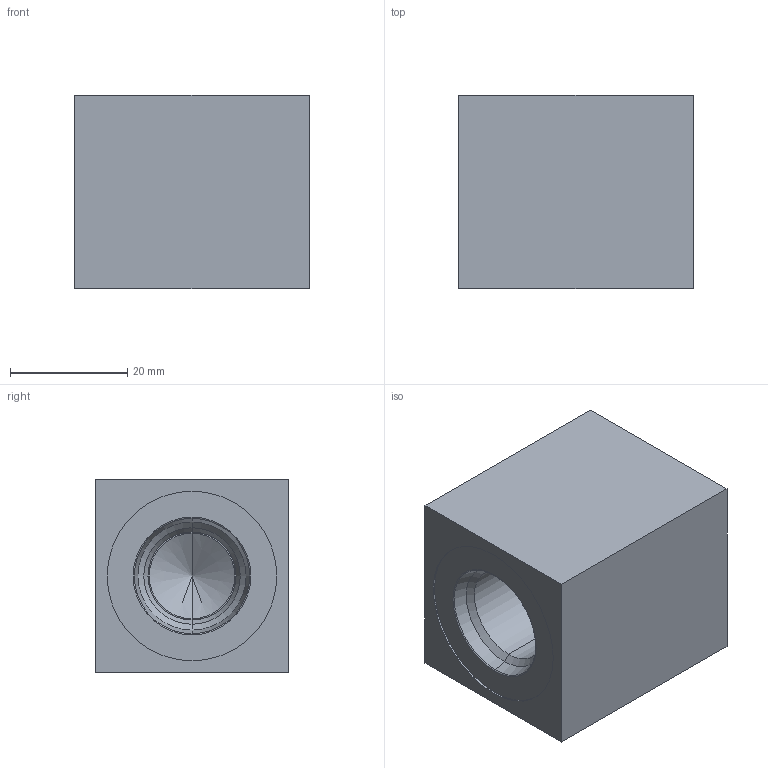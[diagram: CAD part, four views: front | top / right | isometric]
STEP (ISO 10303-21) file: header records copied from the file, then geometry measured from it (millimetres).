
FILE_DESCRIPTION (( 'STEP AP214' ), '1' );
FILE_NAME ('2.13-1002_ISO 7789-18-01-0-98.STEP', '2022-02-08T13:59:43', ( '' ), ( '' ), 'SwSTEP 2.0', 'SolidWorks 2020', '' );
FILE_SCHEMA (( 'AUTOMOTIVE_DESIGN' ));
Length unit declared in the file: millimetre
Products named in the file (1): 2.13-1002_ISO 7789-18-01-0-98
Bounding box: 40 x 33 x 33 mm (x, y, z)
Volume: 36345.6 mm3; surface area: 9088.3 mm2
Topology: 1 solids, 1 shells, 28 faces, 58 edges, 33 vertices
Faces by surface type: cylinder 8, cone 8, plane 8, torus 4
Entity records: 780 total; most frequent: DIRECTION 142, CARTESIAN_POINT 118, ORIENTED_EDGE 112, AXIS2_PLACEMENT_3D 57, EDGE_CURVE 56, VERTEX_POINT 33, EDGE_LOOP 31, CIRCLE 28
